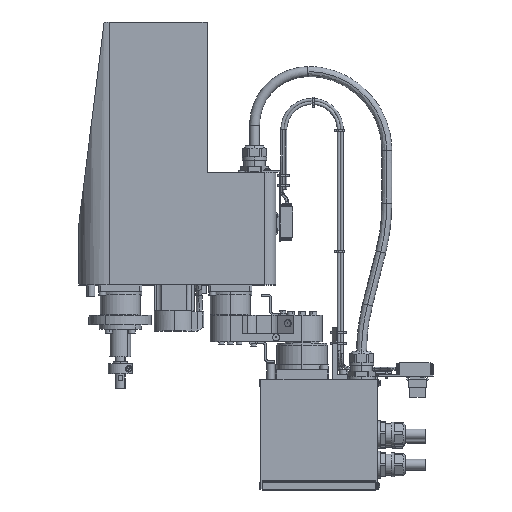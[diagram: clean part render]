
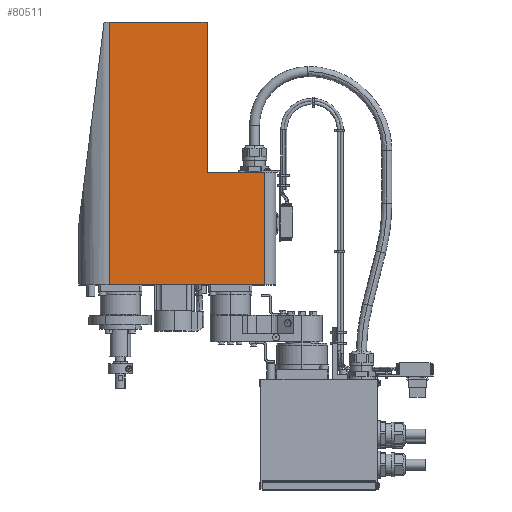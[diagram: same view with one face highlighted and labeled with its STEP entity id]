
A CAD part, top view. The second image highlights one B-rep face of the part: STEP entity #80511.
In plain terms, the highlighted planar face has unit normal (0, 0, 1) as drawn and (0, 1, 0) by its records, which use the part's own axes.
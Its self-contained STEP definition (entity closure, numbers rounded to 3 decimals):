
#39725 = CARTESIAN_POINT ( 'NONE',  ( 94., 30., 314.8 ) ) ;
#39802 = CARTESIAN_POINT ( 'NONE',  ( 36.8, 30., 314.8 ) ) ;
#39803 = DIRECTION ( 'NONE',  ( -1., 0., 0. ) ) ;
#39804 = VECTOR ( 'NONE', #39803, 1000. ) ;
#39805 = CARTESIAN_POINT ( 'NONE',  ( 191., 30., 314.8 ) ) ;
#39806 = LINE ( 'NONE', #39805, #39804 ) ;
#40245 = CARTESIAN_POINT ( 'NONE',  ( 36.8, 30., 203. ) ) ;
#40246 = DIRECTION ( 'NONE',  ( 0., 0., -1. ) ) ;
#40247 = VECTOR ( 'NONE', #40246, 1000. ) ;
#40248 = CARTESIAN_POINT ( 'NONE',  ( 36.8, 30., 463.5 ) ) ;
#40254 = LINE ( 'NONE', #40248, #40247 ) ;
#40281 = CARTESIAN_POINT ( 'NONE',  ( 191., 30., 203. ) ) ;
#40340 = PLANE ( 'NONE',  #40405 ) ;
#40341 = DIRECTION ( 'NONE',  ( 0., 0., -1. ) ) ;
#40342 = VECTOR ( 'NONE', #40341, 1000. ) ;
#40343 = CARTESIAN_POINT ( 'NONE',  ( 191., 30., 463.5 ) ) ;
#40344 = LINE ( 'NONE', #40343, #40342 ) ;
#40382 = DIRECTION ( 'NONE',  ( -1., 0., 0. ) ) ;
#40383 = VECTOR ( 'NONE', #40382, 1000. ) ;
#40384 = CARTESIAN_POINT ( 'NONE',  ( 36.8, 30., 203. ) ) ;
#40385 = LINE ( 'NONE', #40384, #40383 ) ;
#40386 = DIRECTION ( 'NONE',  ( -1., 0., 0. ) ) ;
#40387 = VECTOR ( 'NONE', #40386, 1000. ) ;
#40388 = CARTESIAN_POINT ( 'NONE',  ( 191., 30., 463.5 ) ) ;
#40389 = LINE ( 'NONE', #40388, #40387 ) ;
#40397 = CARTESIAN_POINT ( 'NONE',  ( 94., 30., 463.5 ) ) ;
#40398 = DIRECTION ( 'NONE',  ( 0., 0., 1. ) ) ;
#40399 = VECTOR ( 'NONE', #40398, 1000. ) ;
#40400 = CARTESIAN_POINT ( 'NONE',  ( 94., 30., 463.5 ) ) ;
#40401 = LINE ( 'NONE', #40400, #40399 ) ;
#40402 = DIRECTION ( 'NONE',  ( 1., 0., 0. ) ) ;
#40403 = DIRECTION ( 'NONE',  ( 0., -1., 0. ) ) ;
#40404 = CARTESIAN_POINT ( 'NONE',  ( 191., 30., 463.5 ) ) ;
#40405 = AXIS2_PLACEMENT_3D ( 'NONE', #40404, #40403, #40402 ) ;
#40406 = FACE_OUTER_BOUND ( 'NONE', #80512, .T. ) ;
#40417 = CARTESIAN_POINT ( 'NONE',  ( 191., 30., 463.5 ) ) ;
#80143 = VERTEX_POINT ( 'NONE', #39725 ) ;
#80176 = EDGE_CURVE ( 'NONE', #80143, #80177, #39806, .T. ) ;
#80177 = VERTEX_POINT ( 'NONE', #39802 ) ;
#80445 = EDGE_CURVE ( 'NONE', #80177, #80446, #40254, .T. ) ;
#80446 = VERTEX_POINT ( 'NONE', #40245 ) ;
#80464 = VERTEX_POINT ( 'NONE', #40281 ) ;
#80510 = EDGE_CURVE ( 'NONE', #80534, #80464, #40344, .T. ) ;
#80511 = ADVANCED_FACE ( 'NONE', ( #40406 ), #40340, .F. ) ;
#80512 = EDGE_LOOP ( 'NONE', ( #80513, #80514, #80518, #80522, #80523, #80578 ) ) ;
#80513 = ORIENTED_EDGE ( 'NONE', *, *, #80176, .F. ) ;
#80514 = ORIENTED_EDGE ( 'NONE', *, *, #80515, .T. ) ;
#80515 = EDGE_CURVE ( 'NONE', #80143, #80516, #40401, .T. ) ;
#80516 = VERTEX_POINT ( 'NONE', #40397 ) ;
#80518 = ORIENTED_EDGE ( 'NONE', *, *, #80521, .F. ) ;
#80521 = EDGE_CURVE ( 'NONE', #80534, #80516, #40389, .T. ) ;
#80522 = ORIENTED_EDGE ( 'NONE', *, *, #80510, .T. ) ;
#80523 = ORIENTED_EDGE ( 'NONE', *, *, #80524, .T. ) ;
#80524 = EDGE_CURVE ( 'NONE', #80464, #80446, #40385, .T. ) ;
#80534 = VERTEX_POINT ( 'NONE', #40417 ) ;
#80578 = ORIENTED_EDGE ( 'NONE', *, *, #80445, .F. ) ;
